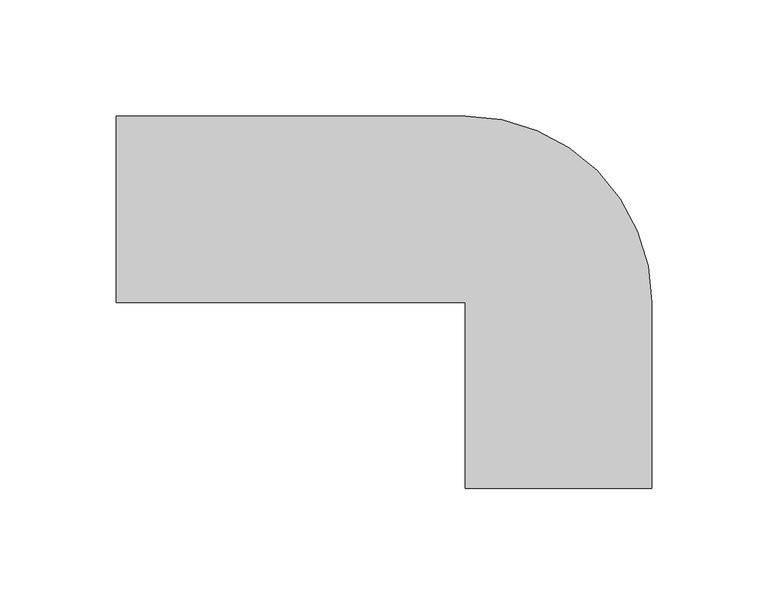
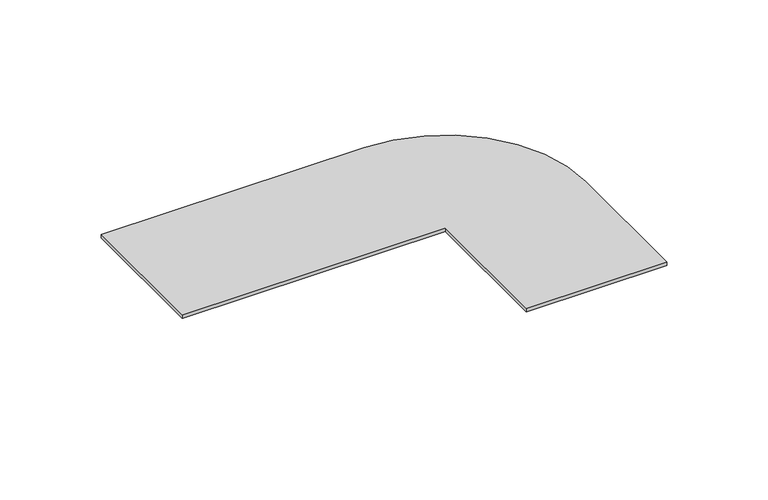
"""IFC4 building model written with IfcOpenShell, lengths in millimetres: duct fitting geometry, Накладка на стык со стеной - для кабель-каналов шириной от 80 до 150 мм : Накладка на стык со стеной - для кабель-каналов шириной от 80 до 150 мм."""

from ifc_helpers import new_model, si_unit, point, frame_2d, origin, origin_with_axes, place, context, project, spatial, polyline, circle_curve, trimmed, segment, composite_curve, outline, extrude, source, transform, mapped, element, save


def duct_fitting_5cd01834(model_context):
    return source(origin(), model_context, "Body", "SweptSolid", [
        extrude(outline(composite_curve([segment(polyline([(-75.0, 120.0), (75.0, 120.0)]), True, "CONTINUOUS"), segment(trimmed(circle_curve(frame_2d((75.0, 40.0)), 80.0), [point((75.0, 120.0))], [point((155.0, 40.0))], False, "CARTESIAN"), True, "CONTINUOUS"), segment(polyline([(155.0, 40.0), (155.0, -40.0), (75.0, -40.0), (75.0, 40.0), (-75.0, 40.0), (-75.0, 120.0)]), True, "CONTINUOUS")], self_intersect=False)), origin_with_axes(), (0.0, 0.0, 1.0), 2.0),
    ])


if __name__ == "__main__":
    model = new_model("IFC4")
    model_context = context("Model", 3, world=origin())
    ifc_project = project(units=[si_unit("LENGTHUNIT", "METRE", prefix="MILLI")], contexts=[model_context])
    site = spatial("IfcSite", under=ifc_project)
    building = spatial("IfcBuilding", under=site)
    placement = place(None, origin())
    duct_fitting_shape = duct_fitting_5cd01834(model_context)
    element("IfcDuctFitting", 1, ObjectType="Накладка на стык со стеной - для кабель-каналов шириной от 80 до 150 мм : Накладка на стык со стеной - для кабель-каналов шириной от 80 до 150 мм", at=placement, inside=building, context=model_context, shape_type="MappedRepresentation", body=[
        mapped(duct_fitting_shape, transform((0.0, 0.0, 0.0), x_axis=(1.0, 0.0, 0.0), y_axis=(0.0, 1.0, 0.0), z_axis=(0.0, 0.0, 1.0))),
    ])
    save(model, "model.ifc")
